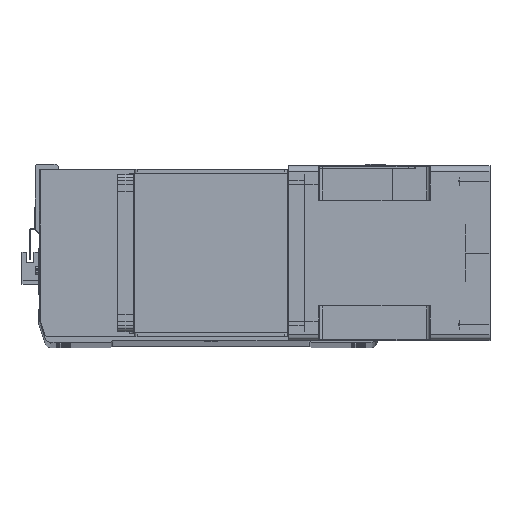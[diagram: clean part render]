
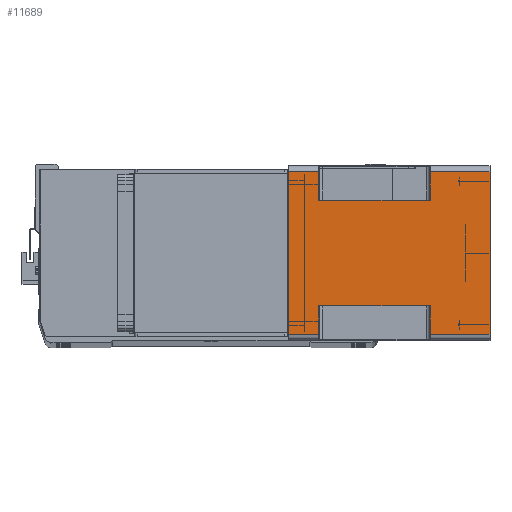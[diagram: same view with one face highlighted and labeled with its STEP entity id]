
A CAD part, top view. The second image highlights one B-rep face of the part: STEP entity #11689.
In plain terms, the highlighted planar face has unit normal (0, 0, 1) as drawn and (1, 0, 0) by its records, which use the part's own axes.
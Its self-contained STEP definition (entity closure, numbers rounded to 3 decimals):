
#533 = DIRECTION ( 'NONE',  ( 0., 0., 1. ) ) ;
#671 = VERTEX_POINT ( 'NONE', #28880 ) ;
#858 = VERTEX_POINT ( 'NONE', #30183 ) ;
#1051 = LINE ( 'NONE', #25035, #5516 ) ;
#1164 = VERTEX_POINT ( 'NONE', #20955 ) ;
#1315 = DIRECTION ( 'NONE',  ( 0., 1., 0. ) ) ;
#1392 = DIRECTION ( 'NONE',  ( 0., 0., 1. ) ) ;
#1443 = LINE ( 'NONE', #7055, #30597 ) ;
#1947 = CARTESIAN_POINT ( 'NONE',  ( 71., -66., -24.5 ) ) ;
#1965 = ORIENTED_EDGE ( 'NONE', *, *, #29795, .F. ) ;
#2497 = CARTESIAN_POINT ( 'NONE',  ( 71., -66., 0. ) ) ;
#2890 = AXIS2_PLACEMENT_3D ( 'NONE', #24658, #6309, #1315 ) ;
#3101 = CARTESIAN_POINT ( 'NONE',  ( 71., -43., -115.5 ) ) ;
#3393 = ORIENTED_EDGE ( 'NONE', *, *, #14245, .F. ) ;
#3577 = DIRECTION ( 'NONE',  ( 0., 0., -1. ) ) ;
#4307 = VECTOR ( 'NONE', #20763, 1000. ) ;
#4423 = VERTEX_POINT ( 'NONE', #18727 ) ;
#5022 = VECTOR ( 'NONE', #3577, 1000. ) ;
#5502 = VERTEX_POINT ( 'NONE', #3101 ) ;
#5516 = VECTOR ( 'NONE', #29769, 1000. ) ;
#6216 = ORIENTED_EDGE ( 'NONE', *, *, #14677, .F. ) ;
#6309 = DIRECTION ( 'NONE',  ( 1., 0., 0. ) ) ;
#6922 = VERTEX_POINT ( 'NONE', #20527 ) ;
#7055 = CARTESIAN_POINT ( 'NONE',  ( 71., -66., -164. ) ) ;
#7081 = VECTOR ( 'NONE', #32395, 1000. ) ;
#7962 = EDGE_CURVE ( 'NONE', #22418, #30518, #10817, .T. ) ;
#8190 = FACE_OUTER_BOUND ( 'NONE', #10253, .T. ) ;
#8272 = CARTESIAN_POINT ( 'NONE',  ( 71., -66., 0. ) ) ;
#8391 = LINE ( 'NONE', #31905, #24597 ) ;
#8474 = EDGE_CURVE ( 'NONE', #5502, #6922, #20037, .T. ) ;
#8720 = LINE ( 'NONE', #8272, #32175 ) ;
#9237 = ORIENTED_EDGE ( 'NONE', *, *, #14575, .T. ) ;
#9399 = VERTEX_POINT ( 'NONE', #21765 ) ;
#9491 = LINE ( 'NONE', #31167, #5022 ) ;
#9518 = VECTOR ( 'NONE', #31860, 1000. ) ;
#10253 = EDGE_LOOP ( 'NONE', ( #1965, #31278, #14829, #17136, #11749, #17400, #11982, #14418, #11329, #6216, #3393, #9237 ) ) ;
#10426 = LINE ( 'NONE', #1947, #4307 ) ;
#10817 = LINE ( 'NONE', #14501, #22148 ) ;
#11274 = VERTEX_POINT ( 'NONE', #15236 ) ;
#11329 = ORIENTED_EDGE ( 'NONE', *, *, #7962, .T. ) ;
#11689 = ADVANCED_FACE ( 'NONE', ( #8190 ), #29608, .T. ) ;
#11693 = CARTESIAN_POINT ( 'NONE',  ( 71., 66., -164. ) ) ;
#11749 = ORIENTED_EDGE ( 'NONE', *, *, #27219, .T. ) ;
#11982 = ORIENTED_EDGE ( 'NONE', *, *, #26075, .F. ) ;
#12291 = LINE ( 'NONE', #30556, #32024 ) ;
#13842 = EDGE_CURVE ( 'NONE', #671, #11274, #27480, .T. ) ;
#14079 = EDGE_CURVE ( 'NONE', #1164, #4423, #8391, .T. ) ;
#14245 = EDGE_CURVE ( 'NONE', #22425, #22231, #1051, .T. ) ;
#14418 = ORIENTED_EDGE ( 'NONE', *, *, #20325, .T. ) ;
#14501 = CARTESIAN_POINT ( 'NONE',  ( 71., 66., -164. ) ) ;
#14575 = EDGE_CURVE ( 'NONE', #22425, #858, #22918, .T. ) ;
#14677 = EDGE_CURVE ( 'NONE', #22231, #30518, #8720, .T. ) ;
#14829 = ORIENTED_EDGE ( 'NONE', *, *, #16495, .F. ) ;
#14838 = CARTESIAN_POINT ( 'NONE',  ( 71., 43., -115.5 ) ) ;
#15236 = CARTESIAN_POINT ( 'NONE',  ( 71., 43., -115.5 ) ) ;
#16495 = EDGE_CURVE ( 'NONE', #1164, #6922, #1443, .T. ) ;
#16792 = DIRECTION ( 'NONE',  ( 0., 1., 0. ) ) ;
#17136 = ORIENTED_EDGE ( 'NONE', *, *, #14079, .T. ) ;
#17234 = DIRECTION ( 'NONE',  ( 0., 0., 1. ) ) ;
#17400 = ORIENTED_EDGE ( 'NONE', *, *, #13842, .T. ) ;
#18682 = LINE ( 'NONE', #11693, #28827 ) ;
#18727 = CARTESIAN_POINT ( 'NONE',  ( 71., 66., -164. ) ) ;
#20037 = LINE ( 'NONE', #27379, #7081 ) ;
#20325 = EDGE_CURVE ( 'NONE', #9399, #22418, #10426, .T. ) ;
#20527 = CARTESIAN_POINT ( 'NONE',  ( 71., -66., -115.5 ) ) ;
#20579 = VECTOR ( 'NONE', #27800, 1000. ) ;
#20763 = DIRECTION ( 'NONE',  ( 0., 1., 0. ) ) ;
#20955 = CARTESIAN_POINT ( 'NONE',  ( 71., -66., -164. ) ) ;
#21193 = CARTESIAN_POINT ( 'NONE',  ( 71., -43., -24.5 ) ) ;
#21765 = CARTESIAN_POINT ( 'NONE',  ( 71., 43., -24.5 ) ) ;
#22148 = VECTOR ( 'NONE', #1392, 1000. ) ;
#22231 = VERTEX_POINT ( 'NONE', #2497 ) ;
#22418 = VERTEX_POINT ( 'NONE', #29533 ) ;
#22425 = VERTEX_POINT ( 'NONE', #29197 ) ;
#22918 = LINE ( 'NONE', #21193, #9518 ) ;
#24556 = DIRECTION ( 'NONE',  ( 0., 1., 0. ) ) ;
#24597 = VECTOR ( 'NONE', #16792, 1000. ) ;
#24658 = CARTESIAN_POINT ( 'NONE',  ( 71., -66., -164. ) ) ;
#25035 = CARTESIAN_POINT ( 'NONE',  ( 71., -66., -164. ) ) ;
#26075 = EDGE_CURVE ( 'NONE', #9399, #11274, #9491, .T. ) ;
#27219 = EDGE_CURVE ( 'NONE', #4423, #671, #18682, .T. ) ;
#27379 = CARTESIAN_POINT ( 'NONE',  ( 71., -66., -115.5 ) ) ;
#27480 = LINE ( 'NONE', #14838, #20579 ) ;
#27800 = DIRECTION ( 'NONE',  ( 0., -1., 0. ) ) ;
#27987 = CARTESIAN_POINT ( 'NONE',  ( 71., 66., 0. ) ) ;
#28220 = DIRECTION ( 'NONE',  ( 0., 0., 1. ) ) ;
#28827 = VECTOR ( 'NONE', #533, 1000. ) ;
#28880 = CARTESIAN_POINT ( 'NONE',  ( 71., 66., -115.5 ) ) ;
#29197 = CARTESIAN_POINT ( 'NONE',  ( 71., -66., -24.5 ) ) ;
#29533 = CARTESIAN_POINT ( 'NONE',  ( 71., 66., -24.5 ) ) ;
#29608 = PLANE ( 'NONE',  #2890 ) ;
#29769 = DIRECTION ( 'NONE',  ( 0., 0., 1. ) ) ;
#29795 = EDGE_CURVE ( 'NONE', #5502, #858, #12291, .T. ) ;
#30183 = CARTESIAN_POINT ( 'NONE',  ( 71., -43., -24.5 ) ) ;
#30518 = VERTEX_POINT ( 'NONE', #27987 ) ;
#30556 = CARTESIAN_POINT ( 'NONE',  ( 71., -43., -164. ) ) ;
#30597 = VECTOR ( 'NONE', #17234, 1000. ) ;
#31167 = CARTESIAN_POINT ( 'NONE',  ( 71., 43., -164. ) ) ;
#31278 = ORIENTED_EDGE ( 'NONE', *, *, #8474, .T. ) ;
#31860 = DIRECTION ( 'NONE',  ( 0., 1., 0. ) ) ;
#31905 = CARTESIAN_POINT ( 'NONE',  ( 71., -66., -164. ) ) ;
#32024 = VECTOR ( 'NONE', #28220, 1000. ) ;
#32175 = VECTOR ( 'NONE', #24556, 1000. ) ;
#32395 = DIRECTION ( 'NONE',  ( 0., -1., 0. ) ) ;
